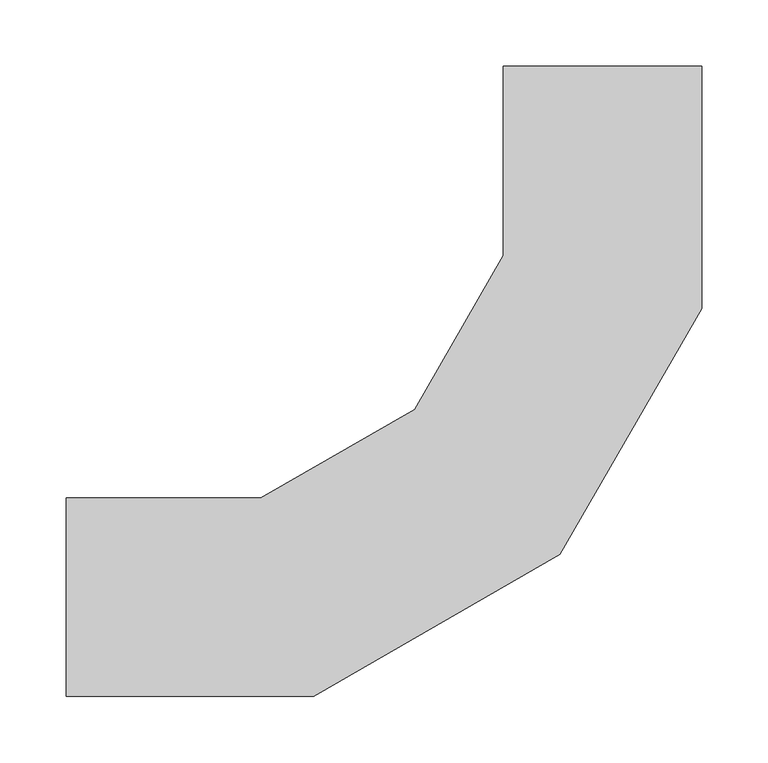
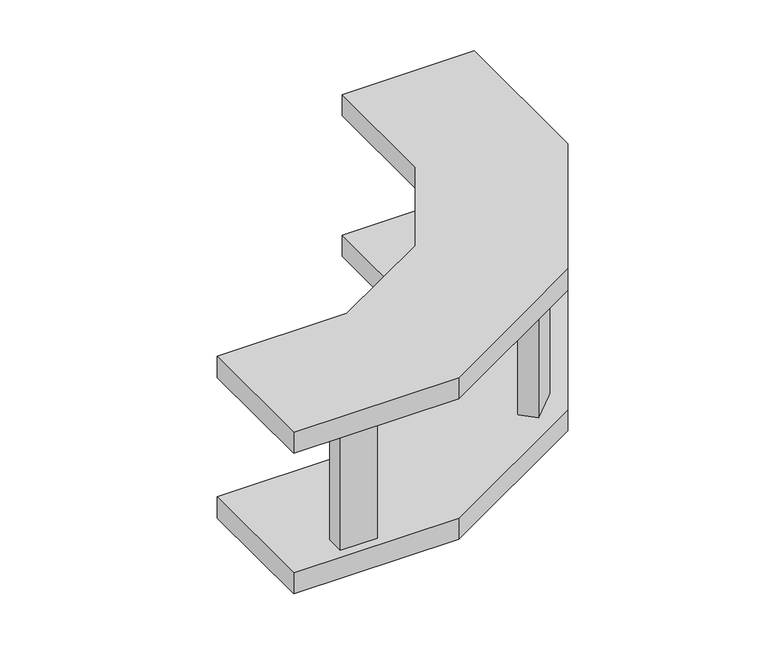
"""IFC4 building model written with IfcOpenShell, lengths in millimetres: cable carrier fitting geometry, Legrand_CableLadder_Swifts_Emerald_OutsideRiser-13 : Hot Dip Galvanised (after manufacture)."""

import ifcopenshell
import ifcopenshell.guid

model = None  # the IFC model being written
_history = None  # IfcOwnerHistory: only IFC2X3 demands one
_inside = {}  # id of a spatial element -> (the spatial element, [elements in it])
_under = {}  # id of a project, library or spatial element -> (it, [spatial elements below it])
_declared = {}  # id of a project -> (the project, [libraries it declares])
_typed = {}  # id of a type object -> (the type object, [elements of that type])
_made_of = {}  # id of a material, layer set ... -> (it, [elements and type objects made of it])


def new_model(schema):
    """Start an empty IFC model of exactly this schema.

    Asked for "IFC4X3", IfcOpenShell would pick the latest addendum, in which some entities
    have other attributes; the version numbers below select the first issue.
    IFC2X3 requires an IfcOwnerHistory on every rooted entity: one is made here for all.
    """
    global model, _history
    if schema == "IFC4X3":
        model = ifcopenshell.file(schema_version=(4, 3, 0, 0))
    else:
        model = ifcopenshell.file(schema=schema)
    _inside.clear()
    _under.clear()
    _declared.clear()
    _typed.clear()
    _made_of.clear()
    _history = None
    if model.schema == "IFC2X3":
        org = make("IfcOrganization", Name="unknown")
        user = make(
            "IfcPersonAndOrganization",
            ThePerson=make("IfcPerson", FamilyName="unknown"),
            TheOrganization=org,
        )
        app = make(
            "IfcApplication",
            ApplicationDeveloper=org,
            Version="unknown",
            ApplicationFullName="unknown",
            ApplicationIdentifier="unknown",
        )
        _history = make(
            "IfcOwnerHistory",
            OwningUser=user,
            OwningApplication=app,
            ChangeAction="ADDED",
            CreationDate=0,
        )
    return model


def make(cls, **values):
    """One entity of the class cls with the attributes given. An attribute that is None is left unset."""
    return model.create_entity(
        cls, **{name: value for name, value in values.items() if value is not None}
    )


def rooted(cls, **values):
    """An entity with a GlobalId (a new one), such as an element, a storey or a relation."""
    return make(cls, GlobalId=ifcopenshell.guid.new(), OwnerHistory=_history, **values)


def si_unit(unit_type, name, prefix=None):
    """IfcSIUnit, for example si_unit("LENGTHUNIT", "METRE", prefix="MILLI")."""
    return make("IfcSIUnit", UnitType=unit_type, Prefix=prefix, Name=name)


def assignment(units):
    """IfcUnitAssignment: the units of a project."""
    return None if units is None else make("IfcUnitAssignment", Units=units)


def point(xyz):
    """IfcCartesianPoint."""
    return None if xyz is None else make("IfcCartesianPoint", Coordinates=xyz)


def direction(xyz):
    """IfcDirection."""
    return None if xyz is None else make("IfcDirection", DirectionRatios=xyz)


def frame(location, z_axis=None, x_axis=None):
    """IfcAxis2Placement3D, a coordinate frame: its origin and axes. An axis left out is left unset."""
    return make(
        "IfcAxis2Placement3D",
        Location=point(location),
        Axis=direction(z_axis),
        RefDirection=direction(x_axis),
    )


def origin():
    """The frame at (0, 0, 0) with its axes left unset."""
    return frame((0.0, 0.0, 0.0))


def place(relative_to, where):
    """IfcLocalPlacement: puts the frame where relative to a parent placement (None: the world)."""
    return make(
        "IfcLocalPlacement", PlacementRelTo=relative_to, RelativePlacement=where
    )


def context(
    kind, dimensions, precision=None, world=None, true_north=None, identifier=None
):
    """IfcGeometricRepresentationContext, for example the 3D "Model" context."""
    return make(
        "IfcGeometricRepresentationContext",
        ContextIdentifier=identifier,
        ContextType=kind,
        CoordinateSpaceDimension=dimensions,
        Precision=precision,
        WorldCoordinateSystem=world,
        TrueNorth=true_north,
    )


def project(units=None, contexts=None):
    """IfcProject with its units and contexts."""
    return rooted(
        "IfcProject",
        Name="project",
        RepresentationContexts=contexts,
        UnitsInContext=assignment(units),
    )


def spatial(cls, under=None, at=None, **own):
    """A site, building, storey or space (cls), placed at a placement, below another one or the project."""
    s = rooted(cls, ObjectPlacement=at, **own)
    if under is not None:
        _under.setdefault(under.id(), (under, []))[1].append(s)
    return s


def polyline(points):
    """IfcPolyline through the points."""
    return make("IfcPolyline", Points=[point(p) for p in points])


def outline(outer, holes=None, kind="AREA"):
    """IfcArbitraryClosedProfileDef: a profile drawn as a closed curve; with holes, ...WithVoids."""
    if holes is None:
        return make("IfcArbitraryClosedProfileDef", ProfileType=kind, OuterCurve=outer)
    return make(
        "IfcArbitraryProfileDefWithVoids",
        ProfileType=kind,
        OuterCurve=outer,
        InnerCurves=holes,
    )


def extrude(swept, where, along, depth):
    """IfcExtrudedAreaSolid: the profile swept, set in the frame where, extruded along a direction by depth."""
    return make(
        "IfcExtrudedAreaSolid",
        SweptArea=swept,
        Position=where,
        ExtrudedDirection=direction(along),
        Depth=depth,
    )


def shape(context_of_items, identifier, shape_type, items):
    """IfcShapeRepresentation: the items that make up one representation, for example the "Body"."""
    return make(
        "IfcShapeRepresentation",
        ContextOfItems=context_of_items,
        RepresentationIdentifier=identifier,
        RepresentationType=shape_type,
        Items=items,
    )


def source(mapping_origin, context_of_items, identifier, shape_type, items):
    """IfcRepresentationMap: a shape defined once, which mapped items show again and again."""
    return make(
        "IfcRepresentationMap",
        MappingOrigin=mapping_origin,
        MappedRepresentation=shape(context_of_items, identifier, shape_type, items),
    )


def transform(
    local_origin,
    x_axis=None,
    y_axis=None,
    z_axis=None,
    scale=None,
    scale2=None,
    scale3=None,
    uniform=True,
):
    """IfcCartesianTransformationOperator3D, or its non-uniform kind. x_axis, y_axis, z_axis: its Axis1, 2, 3."""
    if uniform:
        return make(
            "IfcCartesianTransformationOperator3D",
            Axis1=direction(x_axis),
            Axis2=direction(y_axis),
            LocalOrigin=point(local_origin),
            Scale=scale,
            Axis3=direction(z_axis),
        )
    return make(
        "IfcCartesianTransformationOperator3DnonUniform",
        Axis1=direction(x_axis),
        Axis2=direction(y_axis),
        LocalOrigin=point(local_origin),
        Scale=scale,
        Axis3=direction(z_axis),
        Scale2=scale2,
        Scale3=scale3,
    )


def mapped(mapping_source, mapping_target):
    """IfcMappedItem: shows the shape of a source again, moved by a transform."""
    return make(
        "IfcMappedItem", MappingSource=mapping_source, MappingTarget=mapping_target
    )


def made_of(thing, what):
    """Note that an element or type object is made of a material, layer set ...; save() writes the relation."""
    if what is not None:
        _made_of.setdefault(what.id(), (what, []))[1].append(thing)
    return thing


def element(
    cls,
    number,
    at=None,
    inside=None,
    cuts=None,
    type_object=None,
    material=None,
    context=None,
    identifier="Body",
    shape_type=None,
    held_by="IfcProductDefinitionShape",
    body=None,
    shapes=None,
    **own,
):
    """One element of the class cls, such as IfcWall. Its Tag is "e" and its number.

    at: its placement. inside: the storey or other place that contains it. cuts: it is an
    opening in that element (IfcRelVoidsElement). A single representation is given by context,
    identifier, shape_type and body (its items); several are given by shapes. held_by: the class
    of the entity that holds the representations. save() writes the other relations.
    """
    e = rooted(cls, Tag="e%d" % number, ObjectPlacement=at, **own)
    if body is not None:
        shapes = [shape(context, identifier, shape_type, body)]
    if shapes is not None:
        e.Representation = make(held_by, Representations=shapes)
    if inside is not None:
        _inside.setdefault(inside.id(), (inside, []))[1].append(e)
    if cuts is not None:
        rooted(
            "IfcRelVoidsElement", RelatingBuildingElement=cuts, RelatedOpeningElement=e
        )
    if type_object is not None:
        _typed.setdefault(type_object.id(), (type_object, []))[1].append(e)
    return made_of(e, material)


def aggregate(whole, parts):
    """IfcRelAggregates: a whole, such as a stair, and the parts it consists of."""
    return rooted("IfcRelAggregates", RelatingObject=whole, RelatedObjects=parts)


def save(model, path):
    """Write the relations noted so far, then the file.

    IfcRelAggregates (storeys below a building ...), IfcRelContainedInSpatialStructure (elements
    in a storey), IfcRelDefinesByType, IfcRelAssociatesMaterial and IfcRelDeclares: one each for
    every whole, place, type object, material and project.
    """
    for whole, parts in _under.values():
        aggregate(whole, parts)
    for where, things in _inside.values():
        rooted(
            "IfcRelContainedInSpatialStructure",
            RelatedElements=things,
            RelatingStructure=where,
        )
    for kind, things in _typed.values():
        rooted("IfcRelDefinesByType", RelatedObjects=things, RelatingType=kind)
    for what, things in _made_of.values():
        rooted("IfcRelAssociatesMaterial", RelatedObjects=things, RelatingMaterial=what)
    for by, libraries in _declared.values():
        rooted("IfcRelDeclares", RelatingContext=by, RelatedDefinitions=libraries)
    model.write(path)


def cable_carrier_fitting_d58a4867(model_context):
    return source(origin(), model_context, "Body", "SweptSolid", [
        extrude(outline(polyline([(-79.0732868, 49.3748019), (-49.3748019, 79.0732868), (-34.5255595, 64.2240444), (-64.2240444, 34.5255595), (-79.0732868, 49.3748019)])), frame((0.0, 0.0, -71.5), z_axis=(0.0, 0.0, 1.0), x_axis=(1.0, 0.0, 0.0)), (0.0, 0.0, 1.0), 143.0),
        extrude(outline(polyline([(-346.5, -44.0), (-304.5, -44.0), (-304.5, -65.0), (-346.5, -65.0), (-346.5, -44.0)])), frame((0.0, 0.0, -71.5), z_axis=(0.0, 0.0, 1.0), x_axis=(1.0, 0.0, 0.0)), (0.0, 0.0, 1.0), 143.0),
        extrude(outline(polyline([(44.0, 304.5), (44.0, 346.5), (65.0, 346.5), (65.0, 304.5), (44.0, 304.5)])), frame((0.0, 0.0, -71.5), z_axis=(0.0, 0.0, 1.0), x_axis=(1.0, 0.0, 0.0)), (0.0, 0.0, 1.0), 143.0),
        extrude(outline(polyline([(-218.1863484, -75.0), (-405.5, -75.0), (-405.5, 75.0), (-258.3787273, 75.0), (-142.1212727, 142.1212727), (-75.0, 258.3787273), (-75.0, 401.7), (75.0, 401.7), (75.0, 218.1863484), (-32.3136516, 32.3136516), (-218.1863484, -75.0)])), frame((0.0, 0.0, -97.0), z_axis=(0.0, 0.0, 1.0), x_axis=(1.0, 0.0, 0.0)), (0.0, 0.0, 1.0), 25.5),
        extrude(outline(polyline([(-405.5, -75.0), (-405.5, 75.0), (-258.3787273, 75.0), (-142.1212727, 142.1212727), (-75.0, 258.3787273), (-75.0, 401.7), (75.0, 401.7), (75.0, 218.1863484), (-32.3136516, 32.3136516), (-218.1863484, -75.0), (-405.5, -75.0)])), frame((0.0, 0.0, 71.5), z_axis=(0.0, 0.0, 1.0), x_axis=(1.0, 0.0, 0.0)), (0.0, 0.0, 1.0), 25.5),
    ])


if __name__ == "__main__":
    model = new_model("IFC4")
    model_context = context("Model", 3, world=origin())
    ifc_project = project(units=[si_unit("LENGTHUNIT", "METRE", prefix="MILLI")], contexts=[model_context])
    site = spatial("IfcSite", under=ifc_project)
    building = spatial("IfcBuilding", under=site)
    placement = place(None, origin())
    cable_carrier_fitting_shape = cable_carrier_fitting_d58a4867(model_context)
    element("IfcCableCarrierFitting", 1, ObjectType="Legrand_CableLadder_Swifts_Emerald_OutsideRiser-13 : Hot Dip Galvanised (after manufacture)", at=placement, inside=building, context=model_context, shape_type="MappedRepresentation", body=[
        mapped(cable_carrier_fitting_shape, transform((0.0, 0.0, 0.0), x_axis=(1.0, 0.0, 0.0), y_axis=(0.0, 1.0, 0.0), z_axis=(0.0, 0.0, 1.0))),
    ])
    save(model, "model.ifc")
